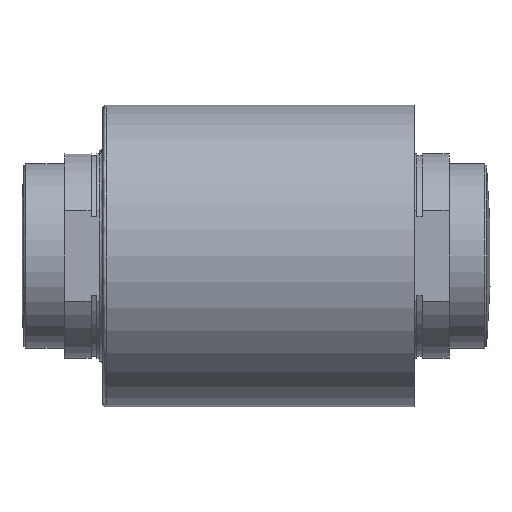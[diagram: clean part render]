
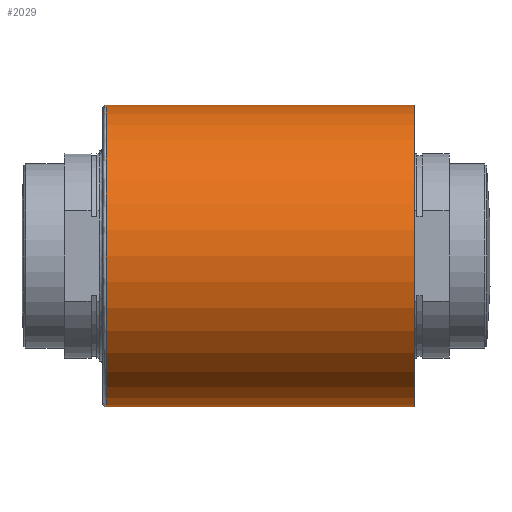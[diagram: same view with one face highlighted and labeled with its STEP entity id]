
A CAD part, left-side view. The second image highlights one B-rep face of the part: STEP entity #2029.
In plain terms, the highlighted cylindrical face has radius 90.178 mm (diameter 180.355 mm), a partial arc.
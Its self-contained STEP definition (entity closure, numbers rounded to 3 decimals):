
#75 = EDGE_CURVE ( 'NONE', #4813, #4283, #6311, .T. ) ;
#100 = DIRECTION ( 'NONE',  ( 0., -1., 0. ) ) ;
#252 = CARTESIAN_POINT ( 'NONE',  ( 0., 230.025, -90.178 ) ) ;
#302 = DIRECTION ( 'NONE',  ( 0., -1., 0. ) ) ;
#472 = EDGE_CURVE ( 'NONE', #4813, #535, #6796, .T. ) ;
#535 = VERTEX_POINT ( 'NONE', #5007 ) ;
#626 = CARTESIAN_POINT ( 'NONE',  ( 0., 230.025, 0. ) ) ;
#647 = AXIS2_PLACEMENT_3D ( 'NONE', #6004, #888, #2524 ) ;
#888 = DIRECTION ( 'NONE',  ( 0., 1., 0. ) ) ;
#1162 = VERTEX_POINT ( 'NONE', #5244 ) ;
#1418 = AXIS2_PLACEMENT_3D ( 'NONE', #626, #2890, #5166 ) ;
#1500 = FACE_OUTER_BOUND ( 'NONE', #3066, .T. ) ;
#1516 = ORIENTED_EDGE ( 'NONE', *, *, #472, .F. ) ;
#1667 = DIRECTION ( 'NONE',  ( 0., -1., 0. ) ) ;
#1951 = CYLINDRICAL_SURFACE ( 'NONE', #4293, 90.178 ) ;
#2029 = ADVANCED_FACE ( 'NONE', ( #1500 ), #1951, .T. ) ;
#2524 = DIRECTION ( 'NONE',  ( 0., 0., -1. ) ) ;
#2890 = DIRECTION ( 'NONE',  ( 0., -1., 0. ) ) ;
#2900 = VECTOR ( 'NONE', #100, 1000. ) ;
#2924 = CARTESIAN_POINT ( 'NONE',  ( 0., 230.025, 90.178 ) ) ;
#3066 = EDGE_LOOP ( 'NONE', ( #1516, #4825, #3111, #3101 ) ) ;
#3101 = ORIENTED_EDGE ( 'NONE', *, *, #7213, .T. ) ;
#3111 = ORIENTED_EDGE ( 'NONE', *, *, #6991, .T. ) ;
#3760 = DIRECTION ( 'NONE',  ( 0., 0., -1. ) ) ;
#3923 = CARTESIAN_POINT ( 'NONE',  ( 0., 0., 90.178 ) ) ;
#3966 = CIRCLE ( 'NONE', #647, 90.178 ) ;
#4208 = CARTESIAN_POINT ( 'NONE',  ( 0., 0., 0. ) ) ;
#4283 = VERTEX_POINT ( 'NONE', #252 ) ;
#4293 = AXIS2_PLACEMENT_3D ( 'NONE', #4208, #302, #3760 ) ;
#4813 = VERTEX_POINT ( 'NONE', #2924 ) ;
#4825 = ORIENTED_EDGE ( 'NONE', *, *, #75, .T. ) ;
#5007 = CARTESIAN_POINT ( 'NONE',  ( 0., 46., 90.178 ) ) ;
#5166 = DIRECTION ( 'NONE',  ( 0., 0., -1. ) ) ;
#5172 = LINE ( 'NONE', #7028, #2900 ) ;
#5244 = CARTESIAN_POINT ( 'NONE',  ( 0., 46., -90.178 ) ) ;
#6004 = CARTESIAN_POINT ( 'NONE',  ( 0., 46., 0. ) ) ;
#6311 = CIRCLE ( 'NONE', #1418, 90.178 ) ;
#6796 = LINE ( 'NONE', #3923, #7282 ) ;
#6991 = EDGE_CURVE ( 'NONE', #4283, #1162, #5172, .T. ) ;
#7028 = CARTESIAN_POINT ( 'NONE',  ( 0., 0., -90.178 ) ) ;
#7213 = EDGE_CURVE ( 'NONE', #1162, #535, #3966, .T. ) ;
#7282 = VECTOR ( 'NONE', #1667, 1000. ) ;
